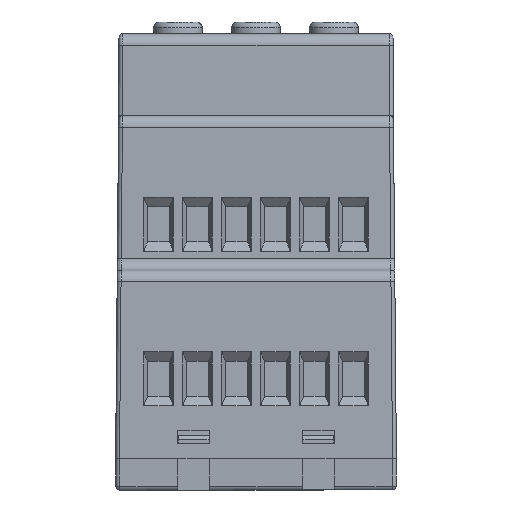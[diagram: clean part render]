
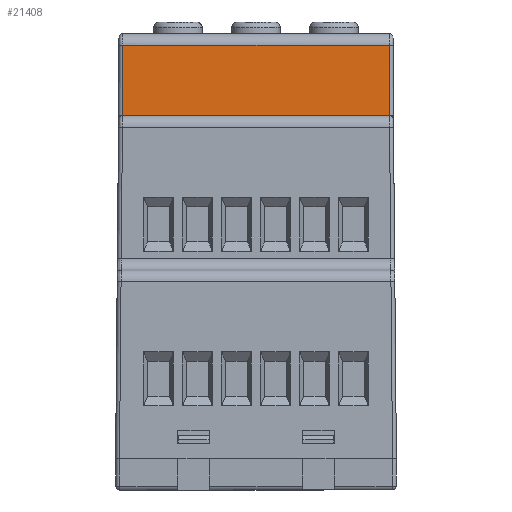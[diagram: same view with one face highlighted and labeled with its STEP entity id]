
A CAD part, left-side view. The second image highlights one B-rep face of the part: STEP entity #21408.
In plain terms, the highlighted planar face has unit normal (-1, 0, 0.009).
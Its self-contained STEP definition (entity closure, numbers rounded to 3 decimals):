
#1458 = VECTOR ( 'NONE', #40609, 1000. ) ;
#1520 = VERTEX_POINT ( 'NONE', #33704 ) ;
#1659 = CARTESIAN_POINT ( 'NONE',  ( -22.609, -10.535, 41. ) ) ;
#1664 = DIRECTION ( 'NONE',  ( 0., 1., 0. ) ) ;
#1861 = CARTESIAN_POINT ( 'NONE',  ( -22.6, 0., 42. ) ) ;
#1935 = VERTEX_POINT ( 'NONE', #19481 ) ;
#2386 = CARTESIAN_POINT ( 'NONE',  ( -22.6, -10.5, 42. ) ) ;
#2449 = DIRECTION ( 'NONE',  ( 0., -1., 0. ) ) ;
#2850 = VECTOR ( 'NONE', #40144, 1000. ) ;
#3144 = EDGE_CURVE ( 'NONE', #35979, #23240, #27278, .T. ) ;
#3891 = LINE ( 'NONE', #50382, #33624 ) ;
#4682 = LINE ( 'NONE', #40571, #22896 ) ;
#5171 = CARTESIAN_POINT ( 'NONE',  ( -22.6, 0., 42. ) ) ;
#5344 = CARTESIAN_POINT ( 'NONE',  ( -22.609, -13.465, 41. ) ) ;
#5351 = DIRECTION ( 'NONE',  ( 0., -1., 0. ) ) ;
#5697 = VERTEX_POINT ( 'NONE', #29835 ) ;
#5776 = CARTESIAN_POINT ( 'NONE',  ( -22.6, 0., 42. ) ) ;
#5781 = EDGE_CURVE ( 'NONE', #33549, #34933, #9944, .T. ) ;
#5898 = ORIENTED_EDGE ( 'NONE', *, *, #15506, .T. ) ;
#7472 = DIRECTION ( 'NONE',  ( -0.009, 0.035, -0.999 ) ) ;
#7642 = VECTOR ( 'NONE', #13041, 1000. ) ;
#7694 = ORIENTED_EDGE ( 'NONE', *, *, #29240, .F. ) ;
#7778 = CARTESIAN_POINT ( 'NONE',  ( -22.6, 0., 42. ) ) ;
#8090 = ORIENTED_EDGE ( 'NONE', *, *, #49565, .T. ) ;
#8132 = CARTESIAN_POINT ( 'NONE',  ( -22.609, 0., 41. ) ) ;
#8483 = DIRECTION ( 'NONE',  ( -1., 0., 0.009 ) ) ;
#9944 = LINE ( 'NONE', #50096, #50078 ) ;
#10202 = LINE ( 'NONE', #22330, #29622 ) ;
#11417 = CARTESIAN_POINT ( 'NONE',  ( -22.6, 10.5, 42. ) ) ;
#11549 = ORIENTED_EDGE ( 'NONE', *, *, #48824, .F. ) ;
#11670 = VERTEX_POINT ( 'NONE', #41868 ) ;
#11677 = DIRECTION ( 'NONE',  ( 0., 1., 0. ) ) ;
#12008 = EDGE_CURVE ( 'NONE', #1935, #45032, #28306, .T. ) ;
#12056 = DIRECTION ( 'NONE',  ( 0., -1., 0. ) ) ;
#12235 = PLANE ( 'NONE',  #15872 ) ;
#13041 = DIRECTION ( 'NONE',  ( 0., -1., 0. ) ) ;
#13359 = LINE ( 'NONE', #5776, #33973 ) ;
#13511 = ORIENTED_EDGE ( 'NONE', *, *, #23787, .F. ) ;
#13704 = EDGE_CURVE ( 'NONE', #17556, #29128, #23107, .T. ) ;
#13759 = ORIENTED_EDGE ( 'NONE', *, *, #12008, .F. ) ;
#14411 = ORIENTED_EDGE ( 'NONE', *, *, #13704, .T. ) ;
#15119 = EDGE_CURVE ( 'NONE', #42531, #45032, #38626, .T. ) ;
#15506 = EDGE_CURVE ( 'NONE', #11670, #23319, #21484, .T. ) ;
#15872 = AXIS2_PLACEMENT_3D ( 'NONE', #31684, #8483, #35628 ) ;
#16369 = VERTEX_POINT ( 'NONE', #39559 ) ;
#16643 = LINE ( 'NONE', #20685, #47662 ) ;
#17310 = CARTESIAN_POINT ( 'NONE',  ( -22.6, 17.12, 42. ) ) ;
#17426 = VECTOR ( 'NONE', #12056, 1000. ) ;
#17556 = VERTEX_POINT ( 'NONE', #11417 ) ;
#17943 = VECTOR ( 'NONE', #21370, 1000. ) ;
#18671 = LINE ( 'NONE', #8132, #17426 ) ;
#19326 = EDGE_CURVE ( 'NONE', #16369, #1520, #37145, .T. ) ;
#19481 = CARTESIAN_POINT ( 'NONE',  ( -22.6, 13.537, 42. ) ) ;
#19599 = VECTOR ( 'NONE', #11677, 1000. ) ;
#19641 = FACE_OUTER_BOUND ( 'NONE', #29182, .T. ) ;
#20140 = CARTESIAN_POINT ( 'NONE',  ( -22.6, -17.12, 42. ) ) ;
#20254 = VECTOR ( 'NONE', #2449, 1000. ) ;
#20441 = LINE ( 'NONE', #41802, #50260 ) ;
#20615 = CARTESIAN_POINT ( 'NONE',  ( -22.6, 0., 42. ) ) ;
#20685 = CARTESIAN_POINT ( 'NONE',  ( -22.508, -17.058, 52.496 ) ) ;
#21039 = DIRECTION ( 'NONE',  ( 0.009, 0.009, 1. ) ) ;
#21055 = DIRECTION ( 'NONE',  ( 0., -1., 0. ) ) ;
#21370 = DIRECTION ( 'NONE',  ( 0., -1., 0. ) ) ;
#21408 = ADVANCED_FACE ( 'NONE', ( #19641 ), #12235, .T. ) ;
#21484 = LINE ( 'NONE', #49020, #20254 ) ;
#22298 = CARTESIAN_POINT ( 'NONE',  ( -22.6, 0., 42. ) ) ;
#22330 = CARTESIAN_POINT ( 'NONE',  ( -22.597, 10.487, 42.366 ) ) ;
#22792 = CARTESIAN_POINT ( 'NONE',  ( -22.6, -17.15, 42. ) ) ;
#22872 = ORIENTED_EDGE ( 'NONE', *, *, #3144, .T. ) ;
#22896 = VECTOR ( 'NONE', #1664, 1000. ) ;
#23107 = LINE ( 'NONE', #20615, #42585 ) ;
#23240 = VERTEX_POINT ( 'NONE', #48463 ) ;
#23319 = VERTEX_POINT ( 'NONE', #2386 ) ;
#23787 = EDGE_CURVE ( 'NONE', #11670, #29128, #4682, .T. ) ;
#25324 = CARTESIAN_POINT ( 'NONE',  ( -22.6, -13.5, 42. ) ) ;
#25929 = EDGE_CURVE ( 'NONE', #23240, #26870, #18671, .T. ) ;
#26194 = DIRECTION ( 'NONE',  ( -0.009, 0.035, -0.999 ) ) ;
#26574 = ORIENTED_EDGE ( 'NONE', *, *, #42187, .T. ) ;
#26870 = VERTEX_POINT ( 'NONE', #40920 ) ;
#27076 = DIRECTION ( 'NONE',  ( 0., -1., 0. ) ) ;
#27278 = LINE ( 'NONE', #34186, #36403 ) ;
#27791 = EDGE_CURVE ( 'NONE', #48516, #36662, #33825, .T. ) ;
#27844 = ORIENTED_EDGE ( 'NONE', *, *, #5781, .F. ) ;
#28261 = LINE ( 'NONE', #1861, #17943 ) ;
#28306 = LINE ( 'NONE', #22298, #49012 ) ;
#28839 = CARTESIAN_POINT ( 'NONE',  ( -22.599, 17.149, 42.15 ) ) ;
#29128 = VERTEX_POINT ( 'NONE', #45998 ) ;
#29182 = EDGE_LOOP ( 'NONE', ( #22872, #33891, #11549, #14411, #13511, #5898, #32322, #30131, #27844, #45627, #7694, #45715, #8090, #36207, #26574, #40501, #13759, #29895 ) ) ;
#29240 = EDGE_CURVE ( 'NONE', #48516, #5697, #29901, .T. ) ;
#29622 = VECTOR ( 'NONE', #26194, 1000. ) ;
#29835 = CARTESIAN_POINT ( 'NONE',  ( -22.6, -13.537, 42. ) ) ;
#29895 = ORIENTED_EDGE ( 'NONE', *, *, #34194, .T. ) ;
#29901 = LINE ( 'NONE', #7778, #19599 ) ;
#30131 = ORIENTED_EDGE ( 'NONE', *, *, #34650, .T. ) ;
#31151 = CARTESIAN_POINT ( 'NONE',  ( -22.521, 0., 51.013 ) ) ;
#31684 = CARTESIAN_POINT ( 'NONE',  ( -22.6, 0., 42. ) ) ;
#31686 = CARTESIAN_POINT ( 'NONE',  ( -22.6, 17.15, 42. ) ) ;
#32322 = ORIENTED_EDGE ( 'NONE', *, *, #49280, .T. ) ;
#32337 = CARTESIAN_POINT ( 'NONE',  ( -22.6, 0., 42. ) ) ;
#32423 = LINE ( 'NONE', #28839, #1458 ) ;
#32924 = VERTEX_POINT ( 'NONE', #1659 ) ;
#33549 = VERTEX_POINT ( 'NONE', #25324 ) ;
#33624 = VECTOR ( 'NONE', #27076, 1000. ) ;
#33704 = CARTESIAN_POINT ( 'NONE',  ( -22.521, 17.071, 51.013 ) ) ;
#33825 = LINE ( 'NONE', #5171, #2850 ) ;
#33891 = ORIENTED_EDGE ( 'NONE', *, *, #25929, .T. ) ;
#33973 = VECTOR ( 'NONE', #21055, 1000. ) ;
#34186 = CARTESIAN_POINT ( 'NONE',  ( -22.604, 13.484, 41.529 ) ) ;
#34194 = EDGE_CURVE ( 'NONE', #1935, #35979, #28261, .T. ) ;
#34650 = EDGE_CURVE ( 'NONE', #32924, #34933, #3891, .T. ) ;
#34933 = VERTEX_POINT ( 'NONE', #5344 ) ;
#35089 = DIRECTION ( 'NONE',  ( 0., 1., 0. ) ) ;
#35628 = DIRECTION ( 'NONE',  ( -0.009, 0., -1. ) ) ;
#35979 = VERTEX_POINT ( 'NONE', #38347 ) ;
#36207 = ORIENTED_EDGE ( 'NONE', *, *, #19326, .T. ) ;
#36403 = VECTOR ( 'NONE', #41987, 1000. ) ;
#36662 = VERTEX_POINT ( 'NONE', #22792 ) ;
#37145 = LINE ( 'NONE', #31151, #42051 ) ;
#38347 = CARTESIAN_POINT ( 'NONE',  ( -22.6, 13.5, 42. ) ) ;
#38626 = LINE ( 'NONE', #32337, #7642 ) ;
#39559 = CARTESIAN_POINT ( 'NONE',  ( -22.521, -17.071, 51.013 ) ) ;
#40144 = DIRECTION ( 'NONE',  ( 0., -1., 0. ) ) ;
#40501 = ORIENTED_EDGE ( 'NONE', *, *, #15119, .T. ) ;
#40571 = CARTESIAN_POINT ( 'NONE',  ( -22.6, 0., 42. ) ) ;
#40609 = DIRECTION ( 'NONE',  ( -0.009, 0.009, -1. ) ) ;
#40920 = CARTESIAN_POINT ( 'NONE',  ( -22.609, 10.535, 41. ) ) ;
#41802 = CARTESIAN_POINT ( 'NONE',  ( -22.597, -10.486, 42.394 ) ) ;
#41868 = CARTESIAN_POINT ( 'NONE',  ( -22.6, -10.463, 42. ) ) ;
#41979 = DIRECTION ( 'NONE',  ( -0.009, -0.035, -0.999 ) ) ;
#41987 = DIRECTION ( 'NONE',  ( -0.009, -0.035, -0.999 ) ) ;
#42051 = VECTOR ( 'NONE', #35089, 1000. ) ;
#42187 = EDGE_CURVE ( 'NONE', #1520, #42531, #32423, .T. ) ;
#42531 = VERTEX_POINT ( 'NONE', #31686 ) ;
#42585 = VECTOR ( 'NONE', #5351, 1000. ) ;
#45032 = VERTEX_POINT ( 'NONE', #17310 ) ;
#45627 = ORIENTED_EDGE ( 'NONE', *, *, #48064, .T. ) ;
#45715 = ORIENTED_EDGE ( 'NONE', *, *, #27791, .T. ) ;
#45998 = CARTESIAN_POINT ( 'NONE',  ( -22.6, 10.463, 42. ) ) ;
#47662 = VECTOR ( 'NONE', #21039, 1000. ) ;
#48064 = EDGE_CURVE ( 'NONE', #33549, #5697, #13359, .T. ) ;
#48463 = CARTESIAN_POINT ( 'NONE',  ( -22.609, 13.465, 41. ) ) ;
#48516 = VERTEX_POINT ( 'NONE', #20140 ) ;
#48824 = EDGE_CURVE ( 'NONE', #17556, #26870, #10202, .T. ) ;
#49012 = VECTOR ( 'NONE', #49499, 1000. ) ;
#49020 = CARTESIAN_POINT ( 'NONE',  ( -22.6, 0., 42. ) ) ;
#49280 = EDGE_CURVE ( 'NONE', #23319, #32924, #20441, .T. ) ;
#49499 = DIRECTION ( 'NONE',  ( 0., 1., 0. ) ) ;
#49565 = EDGE_CURVE ( 'NONE', #36662, #16369, #16643, .T. ) ;
#50078 = VECTOR ( 'NONE', #7472, 1000. ) ;
#50096 = CARTESIAN_POINT ( 'NONE',  ( -22.597, -13.514, 42.394 ) ) ;
#50260 = VECTOR ( 'NONE', #41979, 1000. ) ;
#50382 = CARTESIAN_POINT ( 'NONE',  ( -22.609, 0., 41. ) ) ;
